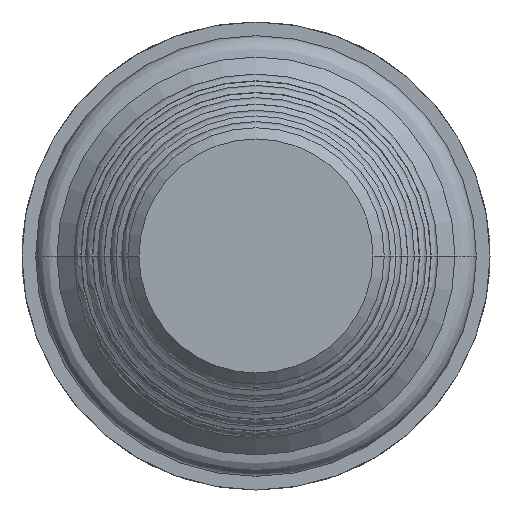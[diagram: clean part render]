
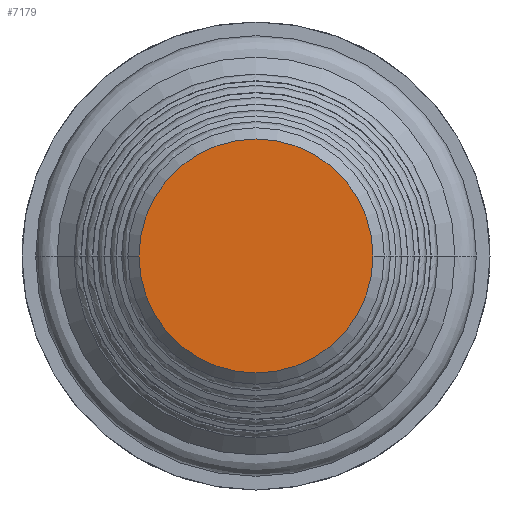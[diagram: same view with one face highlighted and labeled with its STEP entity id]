
A CAD part, front view. The second image highlights one B-rep face of the part: STEP entity #7179.
In plain terms, the highlighted planar face has unit normal (0, -1, 0).
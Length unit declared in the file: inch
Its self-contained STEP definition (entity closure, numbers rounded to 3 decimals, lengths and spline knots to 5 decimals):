
#2157=CARTESIAN_POINT('',(0.,-4.178,0.));
#2158=DIRECTION('',(0.,1.,0.));
#2159=DIRECTION('',(-1.,0.,0.));
#2160=AXIS2_PLACEMENT_3D('',#2157,#2158,#2159);
#2167=CARTESIAN_POINT('',(0.,-4.178,0.));
#2168=DIRECTION('',(0.,1.,0.));
#2169=DIRECTION('',(1.,0.,0.));
#2170=AXIS2_PLACEMENT_3D('',#2167,#2168,#2169);
#3265=CARTESIAN_POINT('',(-0.3125,-4.178,0.));
#3266=CARTESIAN_POINT('',(0.3125,-4.178,0.));
#3267=VERTEX_POINT('',#3265);
#3268=VERTEX_POINT('',#3266);
#7169=CARTESIAN_POINT('',(0.,-4.178,0.));
#7170=DIRECTION('',(0.,-1.,0.));
#7171=DIRECTION('',(-1.,0.,0.));
#7172=AXIS2_PLACEMENT_3D('',#7169,#7170,#7171);
#7173=PLANE('',#7172);
#7174=ORIENTED_EDGE('',*,*,#7159,.T.);
#7176=ORIENTED_EDGE('',*,*,#7175,.T.);
#7177=EDGE_LOOP('',(#7174,#7176));
#7178=FACE_OUTER_BOUND('',#7177,.F.);
#7179=ADVANCED_FACE('',(#7178),#7173,.T.);
#2161=CIRCLE('',#2160,0.3125);
#2171=CIRCLE('',#2170,0.3125);
#7159=EDGE_CURVE('',#3267,#3268,#2161,.T.);
#7175=EDGE_CURVE('',#3268,#3267,#2171,.T.);
